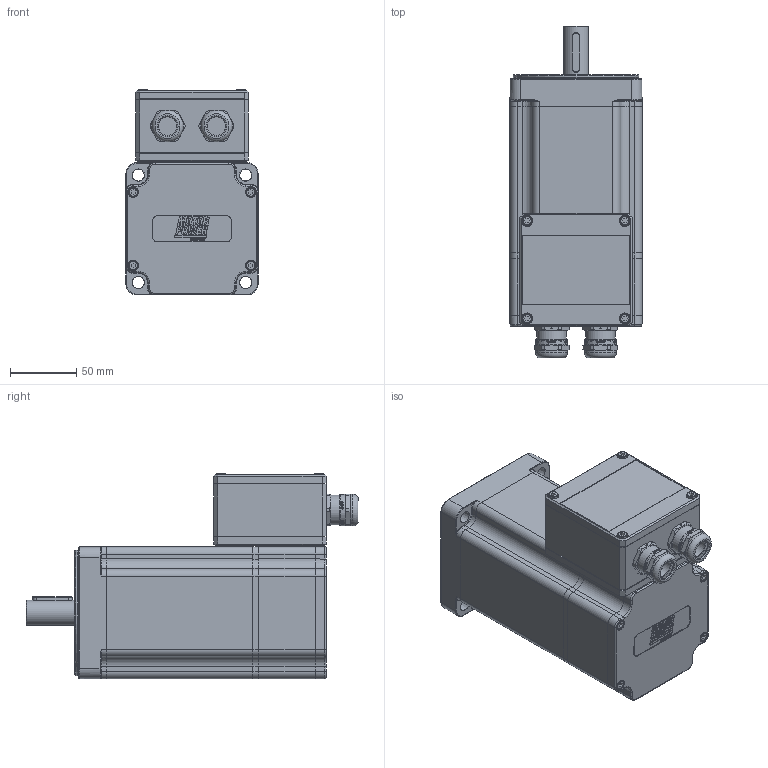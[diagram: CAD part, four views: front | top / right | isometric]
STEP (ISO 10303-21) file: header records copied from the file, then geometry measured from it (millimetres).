
FILE_DESCRIPTION(/* description */ ('Unknown'),/* implementation_level */ '2;1');
FILE_NAME(/* name */ 'TC4-100.4A LV M1 MORS Q0BQ21',/* time_stamp */ '2026-06-09T16:36:13+02:00',/* author */ ('Unknown'),/* organization */ ('Unknown'),/* preprocessor_version */ 'ST-DEVELOPER v19.4',/* originating_system */ 'Solid Edge',/* authorisation */ 'Unknown');
FILE_SCHEMA (('AUTOMOTIVE_DESIGN {1 0 10303 214 3 1 1}'));
Products named in the file (30): Q0BQ21 4A M1 VUOTO; 005119000312; 005113000500; RT TC4-100 H 45 LV A19 CH PR. M1; Albero TC4-100 H 45 LV A19 CH PR. M1; 0166698100000; 005451004032; 003403002037; 003631001089; Calotta TC4 100 LV asola maggiorata V2; 003151003182; 005911000212; 005603000170; 005603000170_Gland; 005603000170_Nut; 005603000170_Clamping insert; 005603000170_Sealing insert; 005603000170_O Ring; 007303000700; 007303000110; 003799004095; 003755100351; 003110000130; Distanziale campana M1 pr. mors; 003107003287; 005911000550; 005911000420; 005911000208; 005008000790; 003251040721
Assembly tree (53 placements, depth 4):
  Q0BQ21 4A M1 VUOTO
    005119000312
    005113000500
    RT TC4-100 H 45 LV A19 CH PR. M1
      Albero TC4-100 H 45 LV A19 CH PR. M1
      0166698100000
        005451004032  x10
        003403002037
        003631001089  x2
    Calotta TC4 100 LV asola maggiorata V2
    003151003182
    005911000212  x4
    005603000170  x2
      005603000170_Gland
      005603000170_Nut
      005603000170_Clamping insert
      005603000170_Sealing insert
      005603000170_O Ring
    007303000700
    007303000110  x2
    003799004095
    003755100351
    003110000130
    Distanziale campana M1 pr. mors
    003107003287
    005911000550  x4
    005911000420  x4
    005911000208  x4
    005008000790
    003251040721
Bounding box: 100 x 251.19 x 155.71 mm (x, y, z)
Volume: 860770.4 mm3; surface area: 383211.2 mm2
Topology: 56 solids, 56 shells, 3742 faces, 9600 edges, 6129 vertices
Faces by surface type: plane 2089, cylinder 941, cone 323, torus 175, bspline 170, sphere 44
Full cylindrical faces by diameter (mm): 1 x8, 2.459 x2, 3.2 x1, 3.242 x36, 3.3 x5, 3.5 x2, 4 x17, 4.5 x24, 4.917 x1, 5 x8, 5.15 x8, 6 x1, 6.4 x1, 7 x16, 8 x8, 8.004 x4, 10 x1, 14 x2, 14.2 x2, 14.3 x2, 16.1 x4, 16.99 x1, 17 x1, 18.4 x4, 19 x1, 19.2 x4, 20 x1, 20.1 x4, 20.9 x2, 21.16 x2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
Entity records: 99329 total; most frequent: CARTESIAN_POINT 19812, DIRECTION 13531, ORIENTED_EDGE 13270, EDGE_CURVE 6635, AXIS2_PLACEMENT_3D 4928, VERTEX_POINT 4450, LINE 3675, VECTOR 3675
